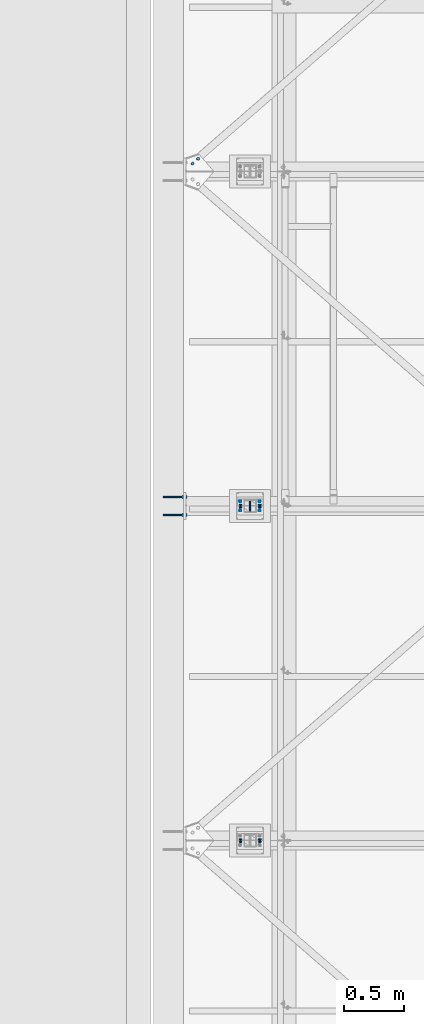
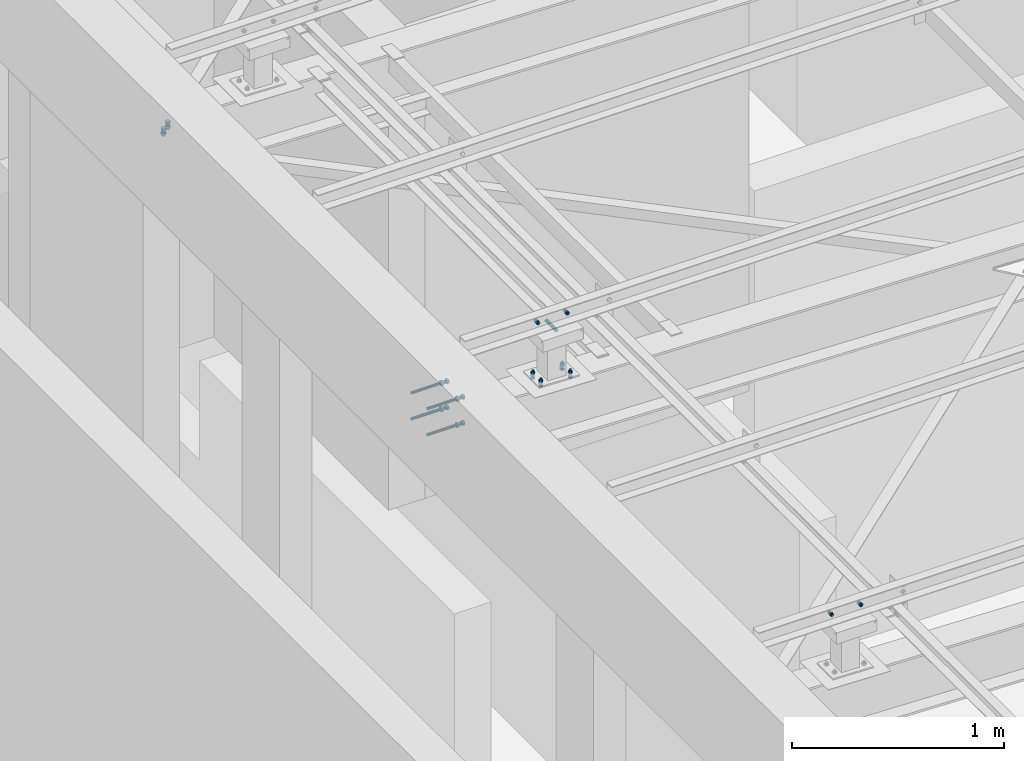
# One storey, part 233 of 3134: 7 mechanical fasteners, 5 elements without a shape of their own.
"""IFC2X3 building model written with IfcOpenShell, lengths in millimetres."""

from ifc_helpers import new_model, si_unit, frame, origin_with_axes, place, context, subcontext, project, spatial, faceted_brep, source, transform, mapped, material, type_object, element, aggregate, save


model = new_model("IFC2X3")

# Units and contexts
model_context = context("Model", 3, precision=1e-05, world=origin_with_axes())
body_context = subcontext(model_context, "Body", "Model", "MODEL_VIEW")
ifc_project = project(units=[si_unit("LENGTHUNIT", "METRE", prefix="MILLI"), si_unit("AREAUNIT", "SQUARE_METRE"), si_unit("VOLUMEUNIT", "CUBIC_METRE"), si_unit("MASSUNIT", "GRAM", prefix="KILO"), si_unit("TIMEUNIT", "SECOND"), si_unit("PLANEANGLEUNIT", "RADIAN"), si_unit("SOLIDANGLEUNIT", "STERADIAN"), si_unit("THERMODYNAMICTEMPERATUREUNIT", "DEGREE_CELSIUS"), si_unit("LUMINOUSINTENSITYUNIT", "LUMEN")], contexts=[model_context])

# Site, building, storey
site_placement = place(None, origin_with_axes())
site = spatial("IfcSite", under=ifc_project, at=site_placement, CompositionType="ELEMENT")
building_placement = place(site_placement, origin_with_axes())
building = spatial("IfcBuilding", under=site, at=building_placement, Name="Undefined", CompositionType="ELEMENT")
storey_placement = place(building_placement, origin_with_axes())
storey = spatial("IfcBuildingStorey", under=building, at=storey_placement, Name="Undefined", CompositionType="ELEMENT", Elevation=0.0)

# Assembly, mechanical fastener
assembly_1_placement = place(storey_placement, origin_with_axes())
assembly_1 = element("IfcElementAssembly", 1, at=assembly_1_placement, inside=storey, AssemblyPlace="NOTDEFINED", PredefinedType="RIGID_FRAME")
ifc_material_1 = material(Name="8.8")
mechanical_fastener_type = type_object("IfcMechanicalFastenerType", Name="Bolt assembly")
shared_shape_1 = source(origin_with_axes(), body_context, "Body", "Brep", [
    faceted_brep([(10.9696551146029, -14.0, 0.0), (5.48482755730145, -14.0, 9.5), (-5.48482755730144, -14.0, 9.5), (-10.9696551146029, -14.0, 1.34339530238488e-15), (-5.48482755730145, -14.0, -9.5), (5.48482755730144, -14.0, -9.50000000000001), (5.48482755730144, -6.0, -9.50000000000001), (-5.48482755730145, -6.0, -9.5), (-10.9696551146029, -6.0, 1.34339530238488e-15), (-5.48482755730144, -6.0, 9.5), (5.48482755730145, -6.0, 9.5), (10.9696551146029, -6.0, 0.0), (6.0, -6.0, 0.0), (5.19615242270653, -6.0, 3.00000000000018), (2.99999999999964, -6.0, 5.19615242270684), (-6.21801588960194e-13, -6.0, 6.0), (-3.00000000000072, -6.0, 5.19615242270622), (-5.19615242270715, -6.0, 2.9999999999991), (-6.0, -6.0, -1.24360317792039e-12), (-5.19615242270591, -6.0, -3.00000000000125), (-2.99999999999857, -6.0, -5.19615242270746), (1.85874342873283e-12, -6.0, -6.0), (3.00000000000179, -6.0, -5.1961524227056), (5.19615242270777, -6.0, -2.99999999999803), (5.19615242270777, 19.0, -2.99999999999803), (3.00000000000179, 19.0, -5.1961524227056), (1.85874342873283e-12, 19.0, -6.0), (-2.99999999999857, 19.0, -5.19615242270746), (-5.19615242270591, 19.0, -3.00000000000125), (-6.0, 19.0, -1.24360317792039e-12), (-5.19615242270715, 19.0, 2.9999999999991), (-3.00000000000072, 19.0, 5.19615242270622), (-6.21801588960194e-13, 19.0, 6.0), (2.99999999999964, 19.0, 5.19615242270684), (5.19615242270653, 19.0, 3.00000000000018), (6.0, 19.0, 0.0), (10.9696551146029, 4.00000000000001, 0.0), (5.48482755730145, 4.00000000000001, 9.5), (-5.48482755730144, 4.00000000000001, 9.5), (-10.9696551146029, 4.00000000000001, 1.34339530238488e-15), (-5.48482755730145, 4.00000000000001, -9.5), (5.48482755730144, 4.00000000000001, -9.50000000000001), (5.48482755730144, 14.0, -9.50000000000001), (-5.48482755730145, 14.0, -9.5), (-10.9696551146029, 14.0, 1.34339530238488e-15), (-5.48482755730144, 14.0, 9.5), (5.48482755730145, 14.0, 9.5), (10.9696551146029, 14.0, 0.0)], [[[0, 1, 2, 3, 4, 5]], [[6, 7, 8, 9, 10, 11]], [[0, 11, 10, 1]], [[1, 10, 9, 2]], [[2, 9, 8, 3]], [[3, 8, 7, 4]], [[4, 7, 6, 5]], [[5, 6, 11, 0]], [[12, 13, 14, 15, 16, 17, 18, 19, 20, 21, 22, 23]], [[24, 25, 26, 27, 28, 29, 30, 31, 32, 33, 34, 35]], [[12, 35, 34, 13]], [[13, 34, 33, 14]], [[14, 33, 32, 15]], [[15, 32, 31, 16]], [[16, 31, 30, 17]], [[17, 30, 29, 18]], [[18, 29, 28, 19]], [[19, 28, 27, 20]], [[20, 27, 26, 21]], [[21, 26, 25, 22]], [[22, 25, 24, 23]], [[23, 24, 35, 12]], [[36, 37, 38, 39, 40, 41]], [[42, 43, 44, 45, 46, 47]], [[36, 47, 46, 37]], [[37, 46, 45, 38]], [[38, 45, 44, 39]], [[39, 44, 43, 40]], [[40, 43, 42, 41]], [[41, 42, 47, 36]]]),
    faceted_brep([(7.0, -0.1, 0.0), (6.06217782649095, -0.1, 3.50000000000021), (3.49999999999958, -0.1, 6.06217782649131), (-7.25435187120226e-13, -0.1, 7.0), (-3.50000000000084, -0.1, 6.06217782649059), (-6.06217782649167, -0.1, 3.49999999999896), (-7.0, -0.1, -1.45087037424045e-12), (-6.06217782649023, -0.1, -3.50000000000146), (-3.49999999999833, -0.1, -6.06217782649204), (2.1685340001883e-12, -0.1, -7.0), (3.50000000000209, -0.1, -6.06217782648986), (6.0621778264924, -0.1, -3.4999999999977), (6.0621778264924, 4.00000000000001, -3.4999999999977), (3.50000000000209, 4.00000000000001, -6.06217782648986), (2.1685340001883e-12, 4.00000000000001, -7.0), (-3.49999999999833, 4.00000000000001, -6.06217782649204), (-6.06217782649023, 4.00000000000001, -3.50000000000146), (-7.0, 4.00000000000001, -1.45087037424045e-12), (-6.06217782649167, 4.00000000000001, 3.49999999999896), (-3.50000000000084, 4.00000000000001, 6.06217782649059), (-7.25435187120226e-13, 4.00000000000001, 7.0), (3.49999999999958, 4.00000000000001, 6.06217782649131), (6.06217782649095, 4.00000000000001, 3.50000000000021), (7.0, 4.00000000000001, 0.0), (7.0, -5.9, 0.0), (6.06217782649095, -5.9, 3.50000000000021), (3.49999999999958, -5.9, 6.06217782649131), (-7.25435187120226e-13, -5.9, 7.0), (-3.50000000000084, -5.9, 6.06217782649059), (-6.06217782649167, -5.9, 3.49999999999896), (-7.0, -5.9, -1.45087037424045e-12), (-6.06217782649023, -5.9, -3.50000000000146), (-3.49999999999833, -5.9, -6.06217782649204), (2.1685340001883e-12, -5.9, -7.0), (3.50000000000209, -5.9, -6.06217782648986), (6.0621778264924, -5.9, -3.4999999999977), (6.0621778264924, 0.0999999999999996, -3.4999999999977), (3.50000000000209, 0.0999999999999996, -6.06217782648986), (2.1685340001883e-12, 0.0999999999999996, -7.0), (-3.49999999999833, 0.0999999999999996, -6.06217782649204), (-6.06217782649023, 0.0999999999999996, -3.50000000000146), (-7.0, 0.0999999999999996, -1.45087037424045e-12), (-6.06217782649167, 0.0999999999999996, 3.49999999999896), (-3.50000000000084, 0.0999999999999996, 6.06217782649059), (-7.25435187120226e-13, 0.0999999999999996, 7.0), (3.49999999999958, 0.0999999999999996, 6.06217782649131), (6.06217782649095, 0.0999999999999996, 3.50000000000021), (7.0, 0.0999999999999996, 0.0)], [[[0, 1, 2, 3, 4, 5, 6, 7, 8, 9, 10, 11]], [[12, 13, 14, 15, 16, 17, 18, 19, 20, 21, 22, 23]], [[0, 23, 22, 1]], [[1, 22, 21, 2]], [[2, 21, 20, 3]], [[3, 20, 19, 4]], [[4, 19, 18, 5]], [[5, 18, 17, 6]], [[6, 17, 16, 7]], [[7, 16, 15, 8]], [[8, 15, 14, 9]], [[9, 14, 13, 10]], [[10, 13, 12, 11]], [[11, 12, 23, 0]], [[24, 25, 26, 27, 28, 29, 30, 31, 32, 33, 34, 35]], [[36, 37, 38, 39, 40, 41, 42, 43, 44, 45, 46, 47]], [[24, 47, 46, 25]], [[25, 46, 45, 26]], [[26, 45, 44, 27]], [[27, 44, 43, 28]], [[28, 43, 42, 29]], [[29, 42, 41, 30]], [[30, 41, 40, 31]], [[31, 40, 39, 32]], [[32, 39, 38, 33]], [[33, 38, 37, 34]], [[34, 37, 36, 35]], [[35, 36, 47, 24]]]),
])
mechanical_fastener_1_placement = place(assembly_1_placement, frame((20440.0, 55455.0, 10900.0), z_axis=(0.0, 0.0, 1.0), x_axis=(-1.0, 0.0, 0.0)))
mechanical_fastener_1 = element("IfcMechanicalFastener", 2, at=mechanical_fastener_1_placement, type_object=mechanical_fastener_type, material=ifc_material_1, Name="Bolt assembly", NominalDiameter=12.0, NominalLength=25.0, context=body_context, shape_type="MappedRepresentation", body=[
    mapped(shared_shape_1, transform((0.0, 0.0, 0.0))),
    mapped(shared_shape_1, transform((160.0, 0.0, 0.0))),
])
aggregate(assembly_1, [mechanical_fastener_1])

assembly_2_placement = place(storey_placement, origin_with_axes())
assembly_2 = element("IfcElementAssembly", 3, at=assembly_2_placement, inside=storey, AssemblyPlace="NOTDEFINED", PredefinedType="RIGID_FRAME")
mechanical_fastener_2_placement = place(assembly_2_placement, frame((20440.0, 58220.0, 10900.0), z_axis=(0.0, 0.0, 1.0), x_axis=(-1.0, 0.0, 0.0)))
mechanical_fastener_2 = element("IfcMechanicalFastener", 4, at=mechanical_fastener_2_placement, type_object=mechanical_fastener_type, material=ifc_material_1, Name="Bolt assembly", NominalDiameter=12.0, NominalLength=25.0, context=body_context, shape_type="MappedRepresentation", body=[
    mapped(shared_shape_1, transform((0.0, 0.0, 0.0))),
    mapped(shared_shape_1, transform((160.0, 0.0, 0.0))),
])

assembly_3_placement = place(storey_placement, origin_with_axes())
assembly_3 = element("IfcElementAssembly", 5, at=assembly_3_placement, inside=storey, AssemblyPlace="NOTDEFINED", PredefinedType="RIGID_FRAME")
shared_shape_2 = source(origin_with_axes(), body_context, "Body", "Brep", [
    faceted_brep([(7.0, 13.0000253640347, 0.0), (6.06217782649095, 13.0000253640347, 3.50000000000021), (3.49999999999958, 13.0000253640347, 6.06217782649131), (-7.25435187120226e-13, 13.0000253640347, 7.0), (-3.50000000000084, 13.0000253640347, 6.06217782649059), (-6.06217782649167, 13.0000253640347, 3.49999999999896), (-7.0, 13.0000253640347, -1.45087037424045e-12), (-6.06217782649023, 13.0000253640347, -3.50000000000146), (-3.49999999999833, 13.0000253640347, -6.06217782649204), (2.1685340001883e-12, 13.0000253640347, -7.0), (3.50000000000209, 13.0000253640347, -6.06217782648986), (6.0621778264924, 13.0000253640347, -3.4999999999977), (6.0621778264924, 15.0999999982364, -3.4999999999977), (3.50000000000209, 15.0999999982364, -6.06217782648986), (2.1685340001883e-12, 15.0999999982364, -7.0), (-3.49999999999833, 15.0999999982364, -6.06217782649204), (-6.06217782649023, 15.0999999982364, -3.50000000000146), (-7.0, 15.0999999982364, -1.45087037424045e-12), (-6.06217782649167, 15.0999999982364, 3.49999999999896), (-3.50000000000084, 15.0999999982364, 6.06217782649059), (-7.25435187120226e-13, 15.0999999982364, 7.0), (3.49999999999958, 15.0999999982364, 6.06217782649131), (6.06217782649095, 15.0999999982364, 3.50000000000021), (7.0, 15.0999999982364, 0.0)], [[[0, 1, 2, 3, 4, 5, 6, 7, 8, 9, 10, 11]], [[12, 13, 14, 15, 16, 17, 18, 19, 20, 21, 22, 23]], [[0, 23, 22, 1]], [[1, 22, 21, 2]], [[2, 21, 20, 3]], [[3, 20, 19, 4]], [[4, 19, 18, 5]], [[5, 18, 17, 6]], [[6, 17, 16, 7]], [[7, 16, 15, 8]], [[8, 15, 14, 9]], [[9, 14, 13, 10]], [[10, 13, 12, 11]], [[11, 12, 23, 0]]]),
])
mechanical_fastener_3_placement = place(assembly_3_placement, frame((20359.2851187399, 58258.0, 10554.9572055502), z_axis=(-0.99951962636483, 0.0, 0.0309922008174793), x_axis=(0.0, -1.0, 0.0)))
mechanical_fastener_3 = element("IfcMechanicalFastener", 6, at=mechanical_fastener_3_placement, type_object=mechanical_fastener_type, material=ifc_material_1, Name="Bolt assembly", NominalDiameter=12.0, NominalLength=2.0, context=body_context, shape_type="MappedRepresentation", body=[
    mapped(shared_shape_2, transform((0.0, -5.32963895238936e-10, -79.9999999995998))),
    mapped(shared_shape_2, transform((76.0, -5.32963895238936e-10, -79.9999999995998))),
    mapped(shared_shape_2, transform((0.0, 5.3114490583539e-10, 79.9999999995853))),
    mapped(shared_shape_2, transform((76.0, 5.3114490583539e-10, 79.9999999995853))),
])
aggregate(assembly_3, [mechanical_fastener_3])

# Mechanical fastener
shared_shape_3 = source(origin_with_axes(), body_context, "Body", "Brep", [
    faceted_brep([(9.0, -50.0, 0.0), (7.79422863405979, -50.0, 4.50000000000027), (4.49999999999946, -50.0, 7.79422863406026), (-9.3270238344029e-13, -50.0, 9.0), (-4.50000000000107, -50.0, 7.79422863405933), (-7.79422863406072, -50.0, 4.49999999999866), (-9.0, -50.0, -1.86540476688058e-12), (-7.79422863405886, -50.0, -4.50000000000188), (-4.49999999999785, -50.0, -7.79422863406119), (2.78811514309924e-12, -50.0, -9.0), (4.50000000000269, -50.0, -7.7942286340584), (7.79422863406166, -50.0, -4.49999999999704), (7.79422863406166, 50.1, -4.49999999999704), (4.50000000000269, 50.1, -7.7942286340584), (2.78811514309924e-12, 50.1, -9.0), (-4.49999999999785, 50.1, -7.79422863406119), (-7.79422863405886, 50.1, -4.50000000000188), (-9.0, 50.1, -1.86540476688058e-12), (-7.79422863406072, 50.1, 4.49999999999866), (-4.50000000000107, 50.1, 7.79422863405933), (-9.3270238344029e-13, 50.1, 9.0), (4.49999999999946, 50.1, 7.79422863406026), (7.79422863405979, 50.1, 4.50000000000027), (9.0, 50.1, 0.0)], [[[0, 1, 2, 3, 4, 5, 6, 7, 8, 9, 10, 11]], [[12, 13, 14, 15, 16, 17, 18, 19, 20, 21, 22, 23]], [[0, 23, 22, 1]], [[1, 22, 21, 2]], [[2, 21, 20, 3]], [[3, 20, 19, 4]], [[4, 19, 18, 5]], [[5, 18, 17, 6]], [[6, 17, 16, 7]], [[7, 16, 15, 8]], [[8, 15, 14, 9]], [[9, 14, 13, 10]], [[10, 13, 12, 11]], [[11, 12, 23, 0]]]),
])
mechanical_fastener_4_placement = place(assembly_2_placement, frame((20360.0, 58220.0, 10851.0), z_axis=(-1.0, 0.0, 0.0), x_axis=(0.0, 0.0, 1.0)))
mechanical_fastener_4 = element("IfcMechanicalFastener", 7, at=mechanical_fastener_4_placement, type_object=mechanical_fastener_type, material=ifc_material_1, Name="Bolt assembly", NominalDiameter=16.0, NominalLength=100.0, context=body_context, shape_type="MappedRepresentation", body=[
    mapped(shared_shape_3, transform((0.0, 0.0, 0.0))),
])

aggregate(assembly_2, [mechanical_fastener_4, mechanical_fastener_2])

# Assembly, mechanical fastener
assembly_4_placement = place(storey_placement, origin_with_axes())
assembly_4 = element("IfcElementAssembly", 8, at=assembly_4_placement, inside=storey, Name="IPE330", AssemblyPlace="NOTDEFINED", PredefinedType="RIGID_FRAME")
shared_shape_4 = source(origin_with_axes(), body_context, "Body", "Brep", [
    faceted_brep([(13.856406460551, -14.0, 0.0), (6.92820323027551, -14.0, 12.0), (-6.92820323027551, -14.0, 12.0), (-13.856406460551, -14.0, 1.69692038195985e-15), (-6.92820323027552, -14.0, -12.0), (6.9282032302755, -14.0, -12.0), (6.9282032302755, -4.00000145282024, -12.0), (-6.92820323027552, -4.00000145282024, -12.0), (-13.856406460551, -4.00000145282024, 1.69692038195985e-15), (-6.92820323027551, -4.00000145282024, 12.0), (6.92820323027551, -4.00000145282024, 12.0), (13.856406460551, -4.00000145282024, 0.0), (8.0, -4.00000145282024, 0.0), (6.92820323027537, -4.00000145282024, 4.00000000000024), (3.99999999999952, -4.00000145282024, 6.92820323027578), (-8.29068785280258e-13, -4.00000145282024, 8.0), (-4.00000000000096, -4.00000145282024, 6.92820323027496), (-6.9282032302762, -4.00000145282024, 3.99999999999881), (-8.0, -4.00000145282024, -1.65813757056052e-12), (-6.92820323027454, -4.00000145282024, -4.00000000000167), (-3.99999999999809, -4.00000145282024, -6.92820323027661), (2.47832457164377e-12, -4.00000145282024, -8.0), (4.00000000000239, -4.00000145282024, -6.92820323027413), (6.92820323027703, -4.00000145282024, -3.99999999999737), (6.92820323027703, 31.0, -3.99999999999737), (4.00000000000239, 31.0, -6.92820323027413), (2.47832457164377e-12, 31.0, -8.0), (-3.99999999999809, 31.0, -6.92820323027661), (-6.92820323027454, 31.0, -4.00000000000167), (-8.0, 31.0, -1.65813757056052e-12), (-6.9282032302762, 31.0, 3.99999999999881), (-4.00000000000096, 31.0, 6.92820323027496), (-8.29068785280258e-13, 31.0, 8.0), (3.99999999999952, 31.0, 6.92820323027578), (6.92820323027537, 31.0, 4.00000000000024), (8.0, 31.0, 0.0), (13.856406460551, 9.99999995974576, 0.0), (6.92820323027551, 9.99999995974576, 12.0), (-6.92820323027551, 9.99999995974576, 12.0), (-13.856406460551, 9.99999995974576, 1.69692038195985e-15), (-6.92820323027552, 9.99999995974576, -12.0), (6.9282032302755, 9.99999995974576, -12.0), (6.9282032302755, 22.9999913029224, -12.0), (-6.92820323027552, 22.9999913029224, -12.0), (-13.856406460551, 22.9999913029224, 1.69692038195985e-15), (-6.92820323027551, 22.9999913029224, 12.0), (6.92820323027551, 22.9999913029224, 12.0), (13.856406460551, 22.9999913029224, 0.0)], [[[0, 1, 2, 3, 4, 5]], [[6, 7, 8, 9, 10, 11]], [[0, 11, 10, 1]], [[1, 10, 9, 2]], [[2, 9, 8, 3]], [[3, 8, 7, 4]], [[4, 7, 6, 5]], [[5, 6, 11, 0]], [[12, 13, 14, 15, 16, 17, 18, 19, 20, 21, 22, 23]], [[24, 25, 26, 27, 28, 29, 30, 31, 32, 33, 34, 35]], [[12, 35, 34, 13]], [[13, 34, 33, 14]], [[14, 33, 32, 15]], [[15, 32, 31, 16]], [[16, 31, 30, 17]], [[17, 30, 29, 18]], [[18, 29, 28, 19]], [[19, 28, 27, 20]], [[20, 27, 26, 21]], [[21, 26, 25, 22]], [[22, 25, 24, 23]], [[23, 24, 35, 12]], [[36, 37, 38, 39, 40, 41]], [[42, 43, 44, 45, 46, 47]], [[36, 47, 46, 37]], [[37, 46, 45, 38]], [[38, 45, 44, 39]], [[39, 44, 43, 40]], [[40, 43, 42, 41]], [[41, 42, 47, 36]]]),
    faceted_brep([(9.0, 3.9, 0.0), (7.79422863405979, 3.9, 4.50000000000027), (4.49999999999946, 3.9, 7.79422863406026), (-9.3270238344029e-13, 3.9, 9.0), (-4.50000000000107, 3.9, 7.79422863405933), (-7.79422863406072, 3.9, 4.49999999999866), (-9.0, 3.9, -1.86540476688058e-12), (-7.79422863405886, 3.9, -4.50000000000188), (-4.49999999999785, 3.9, -7.79422863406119), (2.78811514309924e-12, 3.9, -9.0), (4.50000000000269, 3.9, -7.7942286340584), (7.79422863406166, 3.9, -4.49999999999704), (7.79422863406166, 9.99999995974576, -4.49999999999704), (4.50000000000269, 9.99999995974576, -7.7942286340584), (2.78811514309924e-12, 9.99999995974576, -9.0), (-4.49999999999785, 9.99999995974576, -7.79422863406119), (-7.79422863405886, 9.99999995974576, -4.50000000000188), (-9.0, 9.99999995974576, -1.86540476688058e-12), (-7.79422863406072, 9.99999995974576, 4.49999999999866), (-4.50000000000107, 9.99999995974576, 7.79422863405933), (-9.3270238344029e-13, 9.99999995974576, 9.0), (4.49999999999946, 9.99999995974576, 7.79422863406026), (7.79422863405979, 9.99999995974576, 4.50000000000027), (9.0, 9.99999995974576, 0.0), (9.0, -3.9, 0.0), (7.79422863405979, -3.9, 4.50000000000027), (4.49999999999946, -3.9, 7.79422863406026), (-9.3270238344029e-13, -3.9, 9.0), (-4.50000000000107, -3.9, 7.79422863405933), (-7.79422863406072, -3.9, 4.49999999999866), (-9.0, -3.9, -1.86540476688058e-12), (-7.79422863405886, -3.9, -4.50000000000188), (-4.49999999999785, -3.9, -7.79422863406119), (2.78811514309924e-12, -3.9, -9.0), (4.50000000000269, -3.9, -7.7942286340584), (7.79422863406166, -3.9, -4.49999999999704), (7.79422863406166, 4.09999854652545, -4.49999999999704), (4.50000000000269, 4.09999854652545, -7.7942286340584), (2.78811514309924e-12, 4.09999854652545, -9.0), (-4.49999999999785, 4.09999854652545, -7.79422863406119), (-7.79422863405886, 4.09999854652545, -4.50000000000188), (-9.0, 4.09999854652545, -1.86540476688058e-12), (-7.79422863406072, 4.09999854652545, 4.49999999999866), (-4.50000000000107, 4.09999854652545, 7.79422863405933), (-9.3270238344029e-13, 4.09999854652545, 9.0), (4.49999999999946, 4.09999854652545, 7.79422863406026), (7.79422863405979, 4.09999854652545, 4.50000000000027), (9.0, 4.09999854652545, 0.0)], [[[0, 1, 2, 3, 4, 5, 6, 7, 8, 9, 10, 11]], [[12, 13, 14, 15, 16, 17, 18, 19, 20, 21, 22, 23]], [[0, 23, 22, 1]], [[1, 22, 21, 2]], [[2, 21, 20, 3]], [[3, 20, 19, 4]], [[4, 19, 18, 5]], [[5, 18, 17, 6]], [[6, 17, 16, 7]], [[7, 16, 15, 8]], [[8, 15, 14, 9]], [[9, 14, 13, 10]], [[10, 13, 12, 11]], [[11, 12, 23, 0]], [[24, 25, 26, 27, 28, 29, 30, 31, 32, 33, 34, 35]], [[36, 37, 38, 39, 40, 41, 42, 43, 44, 45, 46, 47]], [[24, 47, 46, 25]], [[25, 46, 45, 26]], [[26, 45, 44, 27]], [[27, 44, 43, 28]], [[28, 43, 42, 29]], [[29, 42, 41, 30]], [[30, 41, 40, 31]], [[31, 40, 39, 32]], [[32, 39, 38, 33]], [[33, 38, 37, 34]], [[34, 37, 36, 35]], [[35, 36, 47, 24]]]),
])
mechanical_fastener_5_placement = place(assembly_4_placement, frame((19930.7692656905, 61089.8850970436, 10421.179291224), z_axis=(0.655215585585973, -0.755168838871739, -0.0203116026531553), x_axis=(-0.754806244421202, -0.655530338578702, 0.0233989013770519)))
mechanical_fastener_5 = element("IfcMechanicalFastener", 9, at=mechanical_fastener_5_placement, type_object=mechanical_fastener_type, material=ifc_material_1, Name="Bolt assembly", NominalDiameter=16.0, NominalLength=35.0, context=body_context, shape_type="MappedRepresentation", body=[
    mapped(shared_shape_4, transform((0.0, 0.0, 0.0))),
    mapped(shared_shape_4, transform((59.9999999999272, 0.0, 5.40239852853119e-10))),
])
aggregate(assembly_4, [mechanical_fastener_5])

# Assembly, mechanical fasteners
assembly_5_placement = place(storey_placement, origin_with_axes())
assembly_5 = element("IfcElementAssembly", 10, at=assembly_5_placement, inside=storey, Name="IPE330", AssemblyPlace="NOTDEFINED", PredefinedType="RIGID_FRAME")
ifc_material_2 = material(Name="HILTI-HAS")
shared_shape_5 = source(origin_with_axes(), body_context, "Body", "Brep", [
    faceted_brep([(13.856406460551, -10.56, 0.0), (6.92820323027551, -10.56, 12.0), (-6.92820323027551, -10.56, 12.0), (-13.856406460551, -10.56, 1.69692038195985e-15), (-6.92820323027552, -10.56, -12.0), (6.9282032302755, -10.56, -12.0), (6.9282032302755, 0.0, -12.0), (-6.92820323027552, 0.0, -12.0), (-13.856406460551, 0.0, 1.69692038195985e-15), (-6.92820323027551, 0.0, 12.0), (6.92820323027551, 0.0, 12.0), (13.856406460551, 0.0, 0.0), (8.0, 0.0, 0.0), (6.92820323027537, 0.0, 4.00000000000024), (3.99999999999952, 0.0, 6.92820323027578), (-8.29068785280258e-13, 0.0, 8.0), (-4.00000000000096, 0.0, 6.92820323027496), (-6.9282032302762, 0.0, 3.99999999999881), (-8.0, 0.0, -1.65813757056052e-12), (-6.92820323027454, 0.0, -4.00000000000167), (-3.99999999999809, 0.0, -6.92820323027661), (2.47832457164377e-12, 0.0, -8.0), (4.00000000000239, 0.0, -6.92820323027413), (6.92820323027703, 0.0, -3.99999999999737), (6.92820323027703, 190.0, -3.99999999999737), (4.00000000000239, 190.0, -6.92820323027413), (2.47832457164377e-12, 190.0, -8.0), (-3.99999999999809, 190.0, -6.92820323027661), (-6.92820323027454, 190.0, -4.00000000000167), (-8.0, 190.0, -1.65813757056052e-12), (-6.9282032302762, 190.0, 3.99999999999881), (-4.00000000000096, 190.0, 6.92820323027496), (-8.29068785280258e-13, 190.0, 8.0), (3.99999999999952, 190.0, 6.92820323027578), (6.92820323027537, 190.0, 4.00000000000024), (8.0, 190.0, 0.0), (15.3344231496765, 20.0, 0.0), (7.66721157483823, 20.0, 13.28), (-7.66721157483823, 20.0, 13.28), (-15.3344231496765, 20.0, 1.87792522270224e-15), (-7.66721157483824, 20.0, -13.28), (7.66721157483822, 20.0, -13.28), (7.66721157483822, 30.56, -13.28), (-7.66721157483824, 30.56, -13.28), (-15.3344231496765, 30.56, 1.87792522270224e-15), (-7.66721157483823, 30.56, 13.28), (7.66721157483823, 30.56, 13.28), (15.3344231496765, 30.56, 0.0)], [[[0, 1, 2, 3, 4, 5]], [[6, 7, 8, 9, 10, 11]], [[0, 11, 10, 1]], [[1, 10, 9, 2]], [[2, 9, 8, 3]], [[3, 8, 7, 4]], [[4, 7, 6, 5]], [[5, 6, 11, 0]], [[12, 13, 14, 15, 16, 17, 18, 19, 20, 21, 22, 23]], [[24, 25, 26, 27, 28, 29, 30, 31, 32, 33, 34, 35]], [[12, 35, 34, 13]], [[13, 34, 33, 14]], [[14, 33, 32, 15]], [[15, 32, 31, 16]], [[16, 31, 30, 17]], [[17, 30, 29, 18]], [[18, 29, 28, 19]], [[19, 28, 27, 20]], [[20, 27, 26, 21]], [[21, 26, 25, 22]], [[22, 25, 24, 23]], [[23, 24, 35, 12]], [[36, 37, 38, 39, 40, 41]], [[42, 43, 44, 45, 46, 47]], [[36, 47, 46, 37]], [[37, 46, 45, 38]], [[38, 45, 44, 39]], [[39, 44, 43, 40]], [[40, 43, 42, 41]], [[41, 42, 47, 36]]]),
    faceted_brep([(9.0, -3.46568413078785e-07, 0.0), (7.79422863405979, -3.46568413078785e-07, 4.50000000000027), (4.49999999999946, -3.46568413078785e-07, 7.79422863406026), (-9.3270238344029e-13, -3.46568413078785e-07, 9.0), (-4.50000000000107, -3.46568413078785e-07, 7.79422863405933), (-7.79422863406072, -3.46568413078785e-07, 4.49999999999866), (-9.0, -3.46568413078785e-07, -1.86540476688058e-12), (-7.79422863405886, -3.46568413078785e-07, -4.50000000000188), (-4.49999999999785, -3.46568413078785e-07, -7.79422863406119), (2.78811514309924e-12, -3.46568413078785e-07, -9.0), (4.50000000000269, -3.46568413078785e-07, -7.7942286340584), (7.79422863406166, -3.46568413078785e-07, -4.49999999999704), (7.79422863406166, 20.0999997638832, -4.49999999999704), (4.50000000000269, 20.0999997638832, -7.7942286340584), (2.78811514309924e-12, 20.0999997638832, -9.0), (-4.49999999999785, 20.0999997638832, -7.79422863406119), (-7.79422863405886, 20.0999997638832, -4.50000000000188), (-9.0, 20.0999997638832, -1.86540476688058e-12), (-7.79422863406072, 20.0999997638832, 4.49999999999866), (-4.50000000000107, 20.0999997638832, 7.79422863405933), (-9.3270238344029e-13, 20.0999997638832, 9.0), (4.49999999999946, 20.0999997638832, 7.79422863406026), (7.79422863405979, 20.0999997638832, 4.50000000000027), (9.0, 20.0999997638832, 0.0)], [[[0, 1, 2, 3, 4, 5, 6, 7, 8, 9, 10, 11]], [[12, 13, 14, 15, 16, 17, 18, 19, 20, 21, 22, 23]], [[0, 23, 22, 1]], [[1, 22, 21, 2]], [[2, 21, 20, 3]], [[3, 20, 19, 4]], [[4, 19, 18, 5]], [[5, 18, 17, 6]], [[6, 17, 16, 7]], [[7, 16, 15, 8]], [[8, 15, 14, 9]], [[9, 14, 13, 10]], [[10, 13, 12, 11]], [[11, 12, 23, 0]]]),
])
mechanical_fastener_6_placement = place(assembly_5_placement, frame((19830.0, 58220.0, 10669.4424502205), z_axis=(0.0, 1.0, 0.0), x_axis=(0.0, 0.0, -1.0)))
mechanical_fastener_6 = element("IfcMechanicalFastener", 11, at=mechanical_fastener_6_placement, type_object=mechanical_fastener_type, material=ifc_material_2, Name="Bolt assembly", NominalDiameter=16.0, NominalLength=190.0, context=body_context, shape_type="MappedRepresentation", body=[
    mapped(shared_shape_5, transform((0.0, 0.0, -75.0))),
    mapped(shared_shape_5, transform((150.0, 0.0, -75.0))),
    mapped(shared_shape_5, transform((0.0, 0.0, 75.0))),
    mapped(shared_shape_5, transform((150.0, 0.0, 75.0))),
])
shared_shape_6 = source(origin_with_axes(), body_context, "Body", "Brep", [
    faceted_brep([(10.9696551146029, -6.49073359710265, 0.0), (5.48482755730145, -6.49073359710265, 9.5), (-5.48482755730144, -6.49073359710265, 9.5), (-10.9696551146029, -6.49073359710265, 1.34339530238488e-15), (-5.48482755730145, -6.49073359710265, -9.5), (5.48482755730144, -6.49073359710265, -9.50000000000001), (5.48482755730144, 1.50926640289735, -9.50000000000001), (-5.48482755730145, 1.50926640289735, -9.5), (-10.9696551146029, 1.50926640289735, 1.34339530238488e-15), (-5.48482755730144, 1.50926640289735, 9.5), (5.48482755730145, 1.50926640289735, 9.5), (10.9696551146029, 1.50926640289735, 0.0), (6.0, 1.50926640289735, 0.0), (5.19615242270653, 1.50926640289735, 3.00000000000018), (2.99999999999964, 1.50926640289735, 5.19615242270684), (-6.21801588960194e-13, 1.50926640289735, 6.0), (-3.00000000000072, 1.50926640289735, 5.19615242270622), (-5.19615242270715, 1.50926640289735, 2.9999999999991), (-6.0, 1.50926640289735, -1.24360317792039e-12), (-5.19615242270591, 1.50926640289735, -3.00000000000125), (-2.99999999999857, 1.50926640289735, -5.19615242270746), (1.85874342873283e-12, 1.50926640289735, -6.0), (3.00000000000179, 1.50926640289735, -5.1961524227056), (5.19615242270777, 1.50926640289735, -2.99999999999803), (5.19615242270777, 41.5092664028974, -2.99999999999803), (3.00000000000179, 41.5092664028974, -5.1961524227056), (1.85874342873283e-12, 41.5092664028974, -6.0), (-2.99999999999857, 41.5092664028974, -5.19615242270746), (-5.19615242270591, 41.5092664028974, -3.00000000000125), (-6.0, 41.5092664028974, -1.24360317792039e-12), (-5.19615242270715, 41.5092664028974, 2.9999999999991), (-3.00000000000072, 41.5092664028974, 5.19615242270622), (-6.21801588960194e-13, 41.5092664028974, 6.0), (2.99999999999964, 41.5092664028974, 5.19615242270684), (5.19615242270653, 41.5092664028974, 3.00000000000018), (6.0, 41.5092664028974, 0.0), (10.9696551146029, 23.0139082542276, 0.0), (5.48482755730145, 23.0139082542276, 9.5), (-5.48482755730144, 23.0139082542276, 9.5), (-10.9696551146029, 23.0139082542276, 1.34339530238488e-15), (-5.48482755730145, 23.0139082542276, -9.5), (5.48482755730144, 23.0139082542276, -9.50000000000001), (5.48482755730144, 33.0139082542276, -9.50000000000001), (-5.48482755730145, 33.0139082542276, -9.5), (-10.9696551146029, 33.0139082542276, 1.34339530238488e-15), (-5.48482755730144, 33.0139082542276, 9.5), (5.48482755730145, 33.0139082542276, 9.5), (10.9696551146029, 33.0139082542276, 0.0)], [[[0, 1, 2, 3, 4, 5]], [[6, 7, 8, 9, 10, 11]], [[0, 11, 10, 1]], [[1, 10, 9, 2]], [[2, 9, 8, 3]], [[3, 8, 7, 4]], [[4, 7, 6, 5]], [[5, 6, 11, 0]], [[12, 13, 14, 15, 16, 17, 18, 19, 20, 21, 22, 23]], [[24, 25, 26, 27, 28, 29, 30, 31, 32, 33, 34, 35]], [[12, 35, 34, 13]], [[13, 34, 33, 14]], [[14, 33, 32, 15]], [[15, 32, 31, 16]], [[16, 31, 30, 17]], [[17, 30, 29, 18]], [[18, 29, 28, 19]], [[19, 28, 27, 20]], [[20, 27, 26, 21]], [[21, 26, 25, 22]], [[22, 25, 24, 23]], [[23, 24, 35, 12]], [[36, 37, 38, 39, 40, 41]], [[42, 43, 44, 45, 46, 47]], [[36, 47, 46, 37]], [[37, 46, 45, 38]], [[38, 45, 44, 39]], [[39, 44, 43, 40]], [[40, 43, 42, 41]], [[41, 42, 47, 36]]]),
    faceted_brep([(7.0, 14.9139082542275, 0.0), (6.06217782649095, 14.9139082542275, 3.50000000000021), (3.49999999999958, 14.9139082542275, 6.06217782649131), (-7.25435187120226e-13, 14.9139082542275, 7.0), (-3.50000000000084, 14.9139082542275, 6.06217782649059), (-6.06217782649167, 14.9139082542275, 3.49999999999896), (-7.0, 14.9139082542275, -1.45087037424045e-12), (-6.06217782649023, 14.9139082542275, -3.50000000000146), (-3.49999999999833, 14.9139082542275, -6.06217782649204), (2.1685340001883e-12, 14.9139082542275, -7.0), (3.50000000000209, 14.9139082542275, -6.06217782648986), (6.0621778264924, 14.9139082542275, -3.4999999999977), (6.0621778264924, 23.0139082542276, -3.4999999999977), (3.50000000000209, 23.0139082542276, -6.06217782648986), (2.1685340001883e-12, 23.0139082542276, -7.0), (-3.49999999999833, 23.0139082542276, -6.06217782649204), (-6.06217782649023, 23.0139082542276, -3.50000000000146), (-7.0, 23.0139082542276, -1.45087037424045e-12), (-6.06217782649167, 23.0139082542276, 3.49999999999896), (-3.50000000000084, 23.0139082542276, 6.06217782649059), (-7.25435187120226e-13, 23.0139082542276, 7.0), (3.49999999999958, 23.0139082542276, 6.06217782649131), (6.06217782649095, 23.0139082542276, 3.50000000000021), (7.0, 23.0139082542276, 0.0), (7.0, 1.60926640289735, 0.0), (6.06217782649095, 1.60926640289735, 3.50000000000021), (3.49999999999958, 1.60926640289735, 6.06217782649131), (-7.25435187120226e-13, 1.60926640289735, 7.0), (-3.50000000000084, 1.60926640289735, 6.06217782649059), (-6.06217782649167, 1.60926640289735, 3.49999999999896), (-7.0, 1.60926640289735, -1.45087037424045e-12), (-6.06217782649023, 1.60926640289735, -3.50000000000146), (-3.49999999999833, 1.60926640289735, -6.06217782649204), (2.1685340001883e-12, 1.60926640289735, -7.0), (3.50000000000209, 1.60926640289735, -6.06217782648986), (6.0621778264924, 1.60926640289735, -3.4999999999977), (6.0621778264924, 13.1092664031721, -3.4999999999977), (3.50000000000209, 13.1092664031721, -6.06217782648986), (2.1685340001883e-12, 13.1092664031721, -7.0), (-3.49999999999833, 13.1092664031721, -6.06217782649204), (-6.06217782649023, 13.1092664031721, -3.50000000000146), (-7.0, 13.1092664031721, -1.45087037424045e-12), (-6.06217782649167, 13.1092664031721, 3.49999999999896), (-3.50000000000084, 13.1092664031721, 6.06217782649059), (-7.25435187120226e-13, 13.1092664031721, 7.0), (3.49999999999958, 13.1092664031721, 6.06217782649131), (6.06217782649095, 13.1092664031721, 3.50000000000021), (7.0, 13.1092664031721, 0.0)], [[[0, 1, 2, 3, 4, 5, 6, 7, 8, 9, 10, 11]], [[12, 13, 14, 15, 16, 17, 18, 19, 20, 21, 22, 23]], [[0, 23, 22, 1]], [[1, 22, 21, 2]], [[2, 21, 20, 3]], [[3, 20, 19, 4]], [[4, 19, 18, 5]], [[5, 18, 17, 6]], [[6, 17, 16, 7]], [[7, 16, 15, 8]], [[8, 15, 14, 9]], [[9, 14, 13, 10]], [[10, 13, 12, 11]], [[11, 12, 23, 0]], [[24, 25, 26, 27, 28, 29, 30, 31, 32, 33, 34, 35]], [[36, 37, 38, 39, 40, 41, 42, 43, 44, 45, 46, 47]], [[24, 47, 46, 25]], [[25, 46, 45, 26]], [[26, 45, 44, 27]], [[27, 44, 43, 28]], [[28, 43, 42, 29]], [[29, 42, 41, 30]], [[30, 41, 40, 31]], [[31, 40, 39, 32]], [[32, 39, 38, 33]], [[33, 38, 37, 34]], [[34, 37, 36, 35]], [[35, 36, 47, 24]]]),
])
mechanical_fastener_7_placement = place(assembly_5_placement, frame((20359.2851187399, 58258.0, 10554.9572055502), z_axis=(-0.99951962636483, 0.0, 0.0309922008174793), x_axis=(0.0, -1.0, 0.0)))
mechanical_fastener_7 = element("IfcMechanicalFastener", 12, at=mechanical_fastener_7_placement, type_object=mechanical_fastener_type, material=ifc_material_1, Name="Bolt assembly", NominalDiameter=12.0, NominalLength=40.0, context=body_context, shape_type="MappedRepresentation", body=[
    mapped(shared_shape_6, transform((0.0, -5.32963895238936e-10, -79.9999999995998))),
    mapped(shared_shape_6, transform((76.0, -5.32963895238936e-10, -79.9999999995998))),
    mapped(shared_shape_6, transform((0.0, 5.3114490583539e-10, 79.9999999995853))),
    mapped(shared_shape_6, transform((76.0, 5.3114490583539e-10, 79.9999999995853))),
])
aggregate(assembly_5, [mechanical_fastener_6, mechanical_fastener_7])

save(model, "model.ifc")
